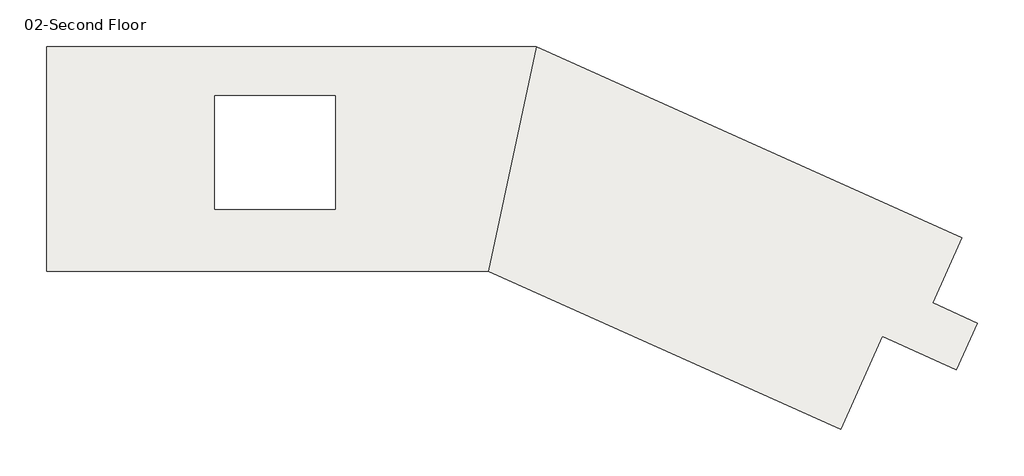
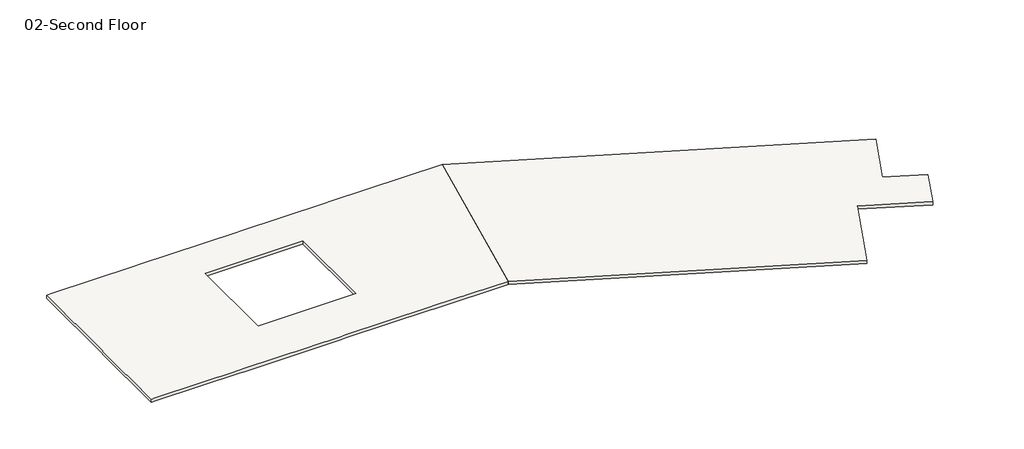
# One storey: 2 slabs.
"""IFC4 building model written with IfcOpenShell, lengths in millimetres."""

from ifc_helpers import new_model, si_unit, frame, origin, place, context, project, spatial, polyline, outline, extrude, faceted_brep, element, save

model = new_model("IFC4")

# Units and contexts
model_context = context("Model", 3, world=origin())
ifc_project = project(units=[si_unit("LENGTHUNIT", "METRE", prefix="MILLI")], contexts=[model_context])

# Site, building, storey
site = spatial("IfcSite", under=ifc_project)
building = spatial("IfcBuilding", under=site)
storey = spatial("IfcBuildingStorey", under=building, Name="02-Second Floor", Elevation=6705.6)

# Slabs
placement = place(None, origin())
element("IfcSlab", 1, ObjectType="RC Slab 10\"", at=placement, inside=storey, context=model_context, shape_type="SweptSolid", body=[
    extrude(outline(polyline([(58160.2438961, -12032.9092683), (56297.2468229, -16180.2956098), (59147.1268229, -17460.4556098), (57809.7238961, -20437.7692683), (53083.0936522, -18314.5770732), (50423.8995059, -24234.4497561), (27969.0958822, -14147.8), (31033.4244536, 152.4), (58160.2438961, -12032.9092683)])), frame((0.0, 0.0, 6451.6), z_axis=(0.0, 0.0, 1.0), x_axis=(1.0, 0.0, 0.0)), (0.0, 0.0, 1.0), 254.0),
])
element("IfcSlab", 2, ObjectType="RC Slab 10\"", at=placement, inside=storey, context=model_context, shape_type="Brep", body=[
    faceted_brep([(31033.4244536, 152.4, 6451.6), (27969.0958822, -14147.8, 6451.6), (22161.5, -14147.8, 6451.6), (21856.7, -14147.8, 6451.6), (15151.1, -14147.8, 6451.6), (14846.3, -14147.8, 6451.6), (7162.8, -14147.8, 6451.6), (6858.0, -14147.8, 6451.6), (152.4, -14147.8, 6451.6), (-152.4, -14147.8, 6451.6), (-152.4, -13843.0, 6451.6), (-152.4, -7658.1, 6451.6), (-152.4, -7353.3, 6451.6), (-152.4, -152.4, 6451.6), (-152.4, 152.4, 6451.6), (152.4, 152.4, 6451.6), (6858.0, 152.4, 6451.6), (7162.8, 152.4, 6451.6), (14846.3, 152.4, 6451.6), (15151.1, 152.4, 6451.6), (21856.7, 152.4, 6451.6), (22161.5, 152.4, 6451.6), (18249.9, -2984.5, 6451.6), (10553.7, -2984.5, 6451.6), (10553.7, -10198.1, 6451.6), (18249.9, -10198.1, 6451.6), (31033.4244536, 152.4, 6705.6), (22161.5, 152.4, 6705.6), (21856.7, 152.4, 6705.6), (15151.1, 152.4, 6705.6), (14846.3, 152.4, 6705.6), (7162.8, 152.4, 6705.6), (6858.0, 152.4, 6705.6), (152.4, 152.4, 6705.6), (-152.4, 152.4, 6705.6), (-152.4, -152.4, 6705.6), (-152.4, -7353.3, 6705.6), (-152.4, -7658.1, 6705.6), (-152.4, -13843.0, 6705.6), (-152.4, -14147.8, 6705.6), (152.4, -14147.8, 6705.6), (6858.0, -14147.8, 6705.6), (7162.8, -14147.8, 6705.6), (14846.3, -14147.8, 6705.6), (15151.1, -14147.8, 6705.6), (21856.7, -14147.8, 6705.6), (22161.5, -14147.8, 6705.6), (27969.0958822, -14147.8, 6705.6), (18249.9, -2984.5, 6705.6), (18249.9, -10198.1, 6705.6), (10553.7, -10198.1, 6705.6), (10553.7, -2984.5, 6705.6)], [[[0, 1, 2, 3, 4, 5, 6, 7, 8, 9, 10, 11, 12, 13, 14, 15, 16, 17, 18, 19, 20, 21], [22, 23, 24, 25]], [[26, 27, 28, 29, 30, 31, 32, 33, 34, 35, 36, 37, 38, 39, 40, 41, 42, 43, 44, 45, 46, 47], [48, 49, 50, 51]], [[1, 0, 26, 47]], [[9, 8, 7, 6, 5, 4, 3, 2, 1, 47, 46, 45, 44, 43, 42, 41, 40, 39]], [[14, 13, 12, 11, 10, 9, 39, 38, 37, 36, 35, 34]], [[0, 21, 20, 19, 18, 17, 16, 15, 14, 34, 33, 32, 31, 30, 29, 28, 27, 26]], [[23, 22, 48, 51]], [[24, 23, 51, 50]], [[25, 24, 50, 49]], [[22, 25, 49, 48]]]),
])

save(model, "model.ifc")
